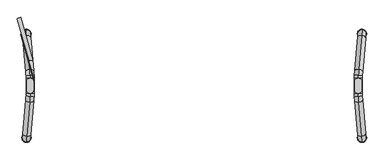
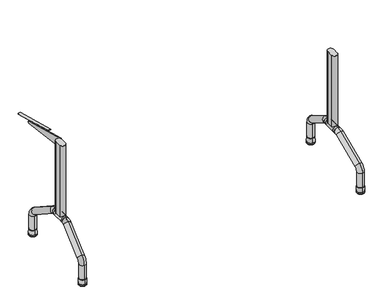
"""IFC4 building model written with IfcOpenShell, lengths in millimetres: furniture geometry, Mesa para refeitório : Mesa para refeitório 180x77cm cód 70475.6."""

from ifc_helpers import new_model, si_unit, point, frame, frame_2d, origin, place, context, project, spatial, polyline, circle_curve, ellipse_curve, trimmed, segment, composite_curve, outline, extrude, source, transform, mapped, element, save
from ifc_brep_helpers import plane_surface, cylinder_surface, revolved_surface, extruded_surface, advanced_brep


def furniture_81a5dd6e(model_context):
    return source(origin(), model_context, "Body", "SolidModel", [
        advanced_brep(
        [(-819.4401581, 37.5, 255.0), (-819.4401581, -37.5, 255.0), (-819.4401581, -37.5, 295.0), (-819.4401581, 37.5, 295.0), (-820.0583573, -51.7441422, 295.0), (-820.0583573, -51.7441422, 255.0), (-820.0583573, 51.7441422, 295.0), (-820.0583573, 51.7441422, 255.0)],
        [
            (0, 1),
            (1, 2, ellipse_curve(frame((-819.4401581, -37.5, 275.0), z_axis=(0.0, 1.0, 0.0), x_axis=(0.0, 0.0, -1.0)), 20.0, 19.923894)),
            (2, 3),
            (3, 0, ellipse_curve(frame((-819.4401581, 37.5, 275.0), z_axis=(0.0, -1.0, 0.0), x_axis=(0.0, 0.0, -1.0)), 20.0, 19.923894)),
            (2, 1, ellipse_curve(frame((-819.4401581, -37.5, 275.0), z_axis=(0.0, 1.0, 0.0), x_axis=(0.0, 0.0, -1.0)), 20.0, 19.923894)),
            (0, 3, ellipse_curve(frame((-819.4401581, 37.5, 275.0), z_axis=(0.0, -1.0, 0.0), x_axis=(0.0, 0.0, -1.0)), 20.0, 19.923894)),
            (4, 5, ellipse_curve(frame((-820.0583573, -51.7441422, 275.0), z_axis=(-0.08663729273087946, -0.9962399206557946, 0.0), x_axis=(0.0, 0.0, -1.0)), 20.0, 19.923894)),
            (5, 4, ellipse_curve(frame((-820.0583573, -51.7441422, 275.0), z_axis=(-0.08663729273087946, -0.9962399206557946, 0.0), x_axis=(0.0, 0.0, -1.0)), 20.0, 19.923894)),
            (4, 2, circle_curve(frame((-983.8513695, -37.5, 295.0), z_axis=(0.0, 0.0, 1.0), x_axis=(1.0, 0.0, 0.0)), 164.4112114)),
            (1, 5, circle_curve(frame((-983.8513695, -37.5, 255.0), z_axis=(0.0, 0.0, -1.0), x_axis=(1.0, 0.0, 0.0)), 164.4112114)),
            (6, 7, ellipse_curve(frame((-820.0583573, 51.7441422, 275.0), z_axis=(-0.08663729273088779, 0.9962399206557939, 0.0), x_axis=(0.0, 0.0, -1.0)), 20.0, 19.923894)),
            (7, 6, ellipse_curve(frame((-820.0583573, 51.7441422, 275.0), z_axis=(-0.08663729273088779, 0.9962399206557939, 0.0), x_axis=(0.0, 0.0, -1.0)), 20.0, 19.923894)),
            (3, 6, circle_curve(frame((-983.8513695, 37.5, 295.0), z_axis=(0.0, 0.0, 1.0), x_axis=(0.996239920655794, 0.08663729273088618, 0.0)), 164.4112114)),
            (7, 0, circle_curve(frame((-983.8513695, 37.5, 255.0), z_axis=(0.0, 0.0, -1.0), x_axis=(0.996239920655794, 0.08663729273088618, 0.0)), 164.4112114)),
        ],
        [
            extruded_surface(trimmed(ellipse_curve(frame((-819.4401581, 37.5, 275.0), z_axis=(0.0, -1.0, 0.0), x_axis=(0.0, 0.0, -1.0)), 20.0, 19.923894), [point((-819.4401581, 37.5, 295.0))], [point((-819.4401581, 37.5, 255.0))], True, "CARTESIAN"), (0.0, -75.0, 0.0), 75.0),
            extruded_surface(trimmed(ellipse_curve(frame((-819.4401581, 37.5, 275.0), z_axis=(0.0, -1.0, 0.0), x_axis=(0.0, 0.0, -1.0)), 20.0, 19.923894), [point((-819.4401581, 37.5, 255.0))], [point((-819.4401581, 37.5, 295.0))], True, "CARTESIAN"), (0.0, -75.0, 0.0), 75.0),
            plane_surface(frame((-820.0583573, -51.7441422, 0.0), z_axis=(-0.08663729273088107, -0.9962399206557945, 0.0), x_axis=(0.0, 0.0, 1.0))),
            revolved_surface(trimmed(ellipse_curve(frame((-819.4401581, -37.5, 275.0), z_axis=(0.0, -1.0, 0.0), x_axis=(0.0, 0.0, -1.0)), 20.0, 19.923894), [point((-819.4401581, -37.5, 295.0))], [point((-819.4401581, -37.5, 255.0))], True, "CARTESIAN"), (-983.8513695, -37.5, 0.0), (0.0, 0.0, 1.0)),
            revolved_surface(trimmed(ellipse_curve(frame((-819.4401581, -37.5, 275.0), z_axis=(0.0, -1.0, 0.0), x_axis=(0.0, 0.0, -1.0)), 20.0, 19.923894), [point((-819.4401581, -37.5, 255.0))], [point((-819.4401581, -37.5, 295.0))], True, "CARTESIAN"), (-983.8513695, -37.5, 0.0), (0.0, 0.0, 1.0)),
            plane_surface(frame((-820.0583573, 51.7441422, 0.0), z_axis=(-0.08663729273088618, 0.996239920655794, 0.0), x_axis=(0.0, 0.0, 1.0))),
            revolved_surface(trimmed(ellipse_curve(frame((-820.0583573, 51.7441422, 275.0), z_axis=(0.08663729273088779, -0.9962399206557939, 0.0), x_axis=(0.0, 0.0, -1.0)), 20.0, 19.923894), [point((-820.0583573, 51.7441422, 295.0))], [point((-820.0583573, 51.7441422, 255.0))], True, "CARTESIAN"), (-983.8513695, 37.5, 0.0), (0.0, 0.0, 1.0)),
            revolved_surface(trimmed(ellipse_curve(frame((-820.0583573, 51.7441422, 275.0), z_axis=(0.08663729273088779, -0.9962399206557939, 0.0), x_axis=(0.0, 0.0, -1.0)), 20.0, 19.923894), [point((-820.0583573, 51.7441422, 255.0))], [point((-820.0583573, 51.7441422, 295.0))], True, "CARTESIAN"), (-983.8513695, 37.5, 0.0), (0.0, 0.0, 1.0)),
        ],
        [
            (0, [[1, 2, 3, 4]]),
            (1, [[-3, 5, -1, 6]]),
            (2, [[7, 8]]),
            (3, [[-7, 9, -2, 10]]),
            (4, [[-8, -10, -5, -9]]),
            (5, [[11, 12]]),
            (6, [[-4, 13, -12, 14]]),
            (7, [[-6, -14, -11, -13]]),
        ],
    ),
        advanced_brep(
        [(-839.9590188, 279.1314153, 43.1183008), (-836.4727891, 239.2836274, 43.1183008), (-839.9590188, 279.1314153, 130.5759348), (-836.4727891, 239.2836274, 130.5759348), (-837.4872272, 250.8787073, 181.5558347), (-822.822711, 83.2625212, 285.9798998), (-820.9843424, 62.2498719, 251.9932999), (-835.6488585, 229.866058, 147.5692348), (-820.0651581, 51.7435473, 295.0), (-820.0651581, 51.7435473, 255.0)],
        [
            (0, 1, circle_curve(frame((-838.215904, 259.2075213, 43.1183008), z_axis=(0.0, 0.0, -1.0), x_axis=(0.08715574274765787, -0.9961946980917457, 0.0)), 20.0)),
            (1, 0, circle_curve(frame((-838.215904, 259.2075213, 43.1183008), z_axis=(0.0, 0.0, -1.0), x_axis=(0.08715574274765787, -0.9961946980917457, 0.0)), 20.0)),
            (0, 2),
            (2, 3, circle_curve(frame((-838.215904, 259.2075213, 130.5759348), z_axis=(0.0, 0.0, -1.0), x_axis=(0.08715574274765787, -0.9961946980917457, 0.0)), 20.0)),
            (3, 1),
            (3, 2, circle_curve(frame((-838.215904, 259.2075213, 130.5759348), z_axis=(0.0, 0.0, -1.0), x_axis=(0.08715574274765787, -0.9961946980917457, 0.0)), 20.0)),
            (4, 5),
            (5, 6, circle_curve(frame((-821.9035267, 72.7561965, 268.9865999), z_axis=(-0.07405318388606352, 0.8464317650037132, -0.5273228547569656), x_axis=(0.04595921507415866, -0.5253162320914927, -0.8496649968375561)), 20.0)),
            (6, 7),
            (7, 4, circle_curve(frame((-836.5680429, 240.3723827, 164.5625347), z_axis=(0.07405318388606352, -0.8464317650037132, 0.5273228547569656), x_axis=(0.04595921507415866, -0.5253162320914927, -0.8496649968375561)), 20.0)),
            (6, 5, circle_curve(frame((-821.9035267, 72.7561965, 268.9865999), z_axis=(-0.07405318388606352, 0.8464317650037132, -0.5273228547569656), x_axis=(0.04595921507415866, -0.5253162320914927, -0.8496649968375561)), 20.0)),
            (4, 7, circle_curve(frame((-836.5680429, 240.3723827, 164.5625347), z_axis=(0.07405318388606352, -0.8464317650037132, 0.5273228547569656), x_axis=(0.04595921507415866, -0.5253162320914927, -0.8496649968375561)), 20.0)),
            (7, 3, circle_curve(frame((-834.7296742, 219.3597334, 130.5759348), z_axis=(-0.9961946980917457, -0.08715574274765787, 0.0), x_axis=(-0.08715574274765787, 0.9961946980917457, 0.0)), 20.0)),
            (2, 4, circle_curve(frame((-834.7296742, 219.3597334, 130.5759348), z_axis=(0.9961946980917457, 0.08715574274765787, 0.0), x_axis=(-0.08715574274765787, 0.9961946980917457, 0.0)), 60.0)),
            (8, 9, circle_curve(frame((-820.0651581, 51.7435473, 275.0), z_axis=(0.08715574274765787, -0.9961946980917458, 0.0), x_axis=(0.0, 0.0, -1.0)), 20.0)),
            (9, 8, circle_curve(frame((-820.0651581, 51.7435473, 275.0), z_axis=(0.08715574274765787, -0.9961946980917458, 0.0), x_axis=(0.0, 0.0, -1.0)), 20.0)),
            (9, 6, circle_curve(frame((-820.0651581, 51.7435473, 235.0), z_axis=(-0.9961946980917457, -0.08715574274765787, 0.0), x_axis=(-0.045959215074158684, 0.5253162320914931, 0.8496649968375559)), 20.0)),
            (5, 8, circle_curve(frame((-820.0651581, 51.7435473, 235.0), z_axis=(0.9961946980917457, 0.08715574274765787, 0.0), x_axis=(-0.045959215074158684, 0.5253162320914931, 0.8496649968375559)), 60.0)),
        ],
        [
            plane_surface(frame((-150.8415623, 319.3449838, 43.1183008), z_axis=(0.0, 0.0, -1.0000000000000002), x_axis=(-0.9961946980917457, -0.08715574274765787, 0.0))),
            cylinder_surface(frame((-838.215904, 259.2075213, 43.1183008), z_axis=(0.0, 0.0, -1.0000000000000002), x_axis=(0.08715574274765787, -0.9961946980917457, 0.0)), 20.0),
            cylinder_surface(frame((-836.5680429, 240.3723827, 164.5625347), z_axis=(-0.07405318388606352, 0.8464317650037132, -0.5273228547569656), x_axis=(0.04595921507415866, -0.5253162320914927, -0.8496649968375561)), 20.0),
            revolved_surface(trimmed(ellipse_curve(frame((-838.215904, 259.2075213, 130.5759348), z_axis=(0.0, 0.0, 1.0000000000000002), x_axis=(0.08715574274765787, -0.9961946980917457, 0.0)), 20.0, 20.0), [point((-836.4727891, 239.2836274, 130.5759348))], [point((-839.9590188, 279.1314153, 130.5759348))], True, "CARTESIAN"), (-147.3553326, 279.4971959, 130.5759348), (-0.9961946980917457, -0.08715574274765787, 0.0)),
            revolved_surface(trimmed(ellipse_curve(frame((-838.215904, 259.2075213, 130.5759348), z_axis=(0.0, 0.0, 1.0000000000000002), x_axis=(0.08715574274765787, -0.9961946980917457, 0.0)), 20.0, 20.0), [point((-839.9590188, 279.1314153, 130.5759348))], [point((-836.4727891, 239.2836274, 130.5759348))], True, "CARTESIAN"), (-147.3553326, 279.4971959, 130.5759348), (-0.9961946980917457, -0.08715574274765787, 0.0)),
            plane_surface(frame((-132.6908165, 111.8810098, 275.0), z_axis=(0.08715574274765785, -0.9961946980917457, 0.0), x_axis=(-0.9961946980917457, -0.08715574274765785, 0.0))),
            revolved_surface(trimmed(ellipse_curve(frame((-821.9035267, 72.7561965, 268.9865999), z_axis=(0.07405318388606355, -0.8464317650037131, 0.527322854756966), x_axis=(0.0459592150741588, -0.5253162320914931, -0.8496649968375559)), 20.0, 20.0), [point((-820.9843424, 62.2498719, 251.9932999))], [point((-822.822711, 83.2625212, 285.9798998))], True, "CARTESIAN"), (-132.6908165, 111.8810098, 235.0), (-0.9961946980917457, -0.08715574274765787, 0.0)),
            revolved_surface(trimmed(ellipse_curve(frame((-821.9035267, 72.7561965, 268.9865999), z_axis=(0.07405318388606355, -0.8464317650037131, 0.527322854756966), x_axis=(0.0459592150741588, -0.5253162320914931, -0.8496649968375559)), 20.0, 20.0), [point((-822.822711, 83.2625212, 285.9798998))], [point((-820.9843424, 62.2498719, 251.9932999))], True, "CARTESIAN"), (-132.6908165, 111.8810098, 235.0), (-0.9961946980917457, -0.08715574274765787, 0.0)),
        ],
        [
            (0, [[1, 2]]),
            (1, [[3, 4, 5, -1]]),
            (1, [[-5, 6, -3, -2]]),
            (2, [[7, 8, 9, 10]]),
            (2, [[-9, 11, -7, 12]]),
            (3, [[-10, 13, -4, 14]]),
            (4, [[-12, -14, -6, -13]]),
            (5, [[15, 16]]),
            (6, [[-16, 17, -8, 18]]),
            (7, [[-15, -18, -11, -17]]),
        ],
    ),
        advanced_brep(
        [(-836.4727891, -239.2836274, 43.1183008), (-839.9590188, -279.1314153, 43.1183008), (-839.9590188, -279.1314153, 130.5759348), (-836.4727891, -239.2836274, 130.5759348), (-837.4872272, -250.8787073, 181.5558347), (-822.822711, -83.2625212, 285.9798998), (-820.9843424, -62.2498719, 251.9932999), (-835.6488585, -229.866058, 147.5692348), (-820.0651581, -51.7435473, 255.0), (-820.0651581, -51.7435473, 295.0)],
        [
            (0, 1, circle_curve(frame((-838.215904, -259.2075213, 43.1183008), z_axis=(0.0, 0.0, -1.0), x_axis=(-0.08715574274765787, -0.9961946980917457, 0.0)), 20.0)),
            (1, 0, circle_curve(frame((-838.215904, -259.2075213, 43.1183008), z_axis=(0.0, 0.0, -1.0), x_axis=(-0.08715574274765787, -0.9961946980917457, 0.0)), 20.0)),
            (1, 2),
            (2, 3, circle_curve(frame((-838.215904, -259.2075213, 130.5759348), z_axis=(0.0, 0.0, -1.0), x_axis=(-0.08715574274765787, -0.9961946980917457, 0.0)), 20.0)),
            (3, 0),
            (3, 2, circle_curve(frame((-838.215904, -259.2075213, 130.5759348), z_axis=(0.0, 0.0, -1.0), x_axis=(-0.08715574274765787, -0.9961946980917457, 0.0)), 20.0)),
            (4, 5),
            (5, 6, circle_curve(frame((-821.9035267, -72.7561965, 268.9865999), z_axis=(-0.07405318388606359, -0.8464317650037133, -0.5273228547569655), x_axis=(-0.04595921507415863, -0.5253162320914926, 0.8496649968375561)), 20.0)),
            (6, 7),
            (7, 4, circle_curve(frame((-836.5680429, -240.3723827, 164.5625347), z_axis=(0.07405318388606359, 0.8464317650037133, 0.5273228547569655), x_axis=(-0.04595921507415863, -0.5253162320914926, 0.8496649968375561)), 20.0)),
            (6, 5, circle_curve(frame((-821.9035267, -72.7561965, 268.9865999), z_axis=(-0.07405318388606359, -0.8464317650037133, -0.5273228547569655), x_axis=(-0.04595921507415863, -0.5253162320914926, 0.8496649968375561)), 20.0)),
            (4, 7, circle_curve(frame((-836.5680429, -240.3723827, 164.5625347), z_axis=(0.07405318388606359, 0.8464317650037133, 0.5273228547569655), x_axis=(-0.04595921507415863, -0.5253162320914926, 0.8496649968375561)), 20.0)),
            (7, 3, circle_curve(frame((-834.7296742, -219.3597334, 130.5759348), z_axis=(0.9961946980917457, -0.08715574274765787, 0.0), x_axis=(-0.08715574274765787, -0.9961946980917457, 0.0)), 20.0)),
            (2, 4, circle_curve(frame((-834.7296742, -219.3597334, 130.5759348), z_axis=(-0.9961946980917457, 0.08715574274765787, 0.0), x_axis=(-0.08715574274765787, -0.9961946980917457, 0.0)), 60.0)),
            (8, 9, circle_curve(frame((-820.0651581, -51.7435473, 275.0), z_axis=(0.08715574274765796, 0.9961946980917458, 0.0), x_axis=(0.0, 0.0, 1.0)), 20.0)),
            (9, 8, circle_curve(frame((-820.0651581, -51.7435473, 275.0), z_axis=(0.08715574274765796, 0.9961946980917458, 0.0), x_axis=(0.0, 0.0, 1.0)), 20.0)),
            (8, 6, circle_curve(frame((-820.0651581, -51.7435473, 235.0), z_axis=(0.9961946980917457, -0.08715574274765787, 0.0), x_axis=(-0.045959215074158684, -0.5253162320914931, 0.8496649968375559)), 20.0)),
            (5, 9, circle_curve(frame((-820.0651581, -51.7435473, 235.0), z_axis=(-0.9961946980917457, 0.08715574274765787, 0.0), x_axis=(-0.045959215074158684, -0.5253162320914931, 0.8496649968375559)), 60.0)),
        ],
        [
            plane_surface(frame((-150.8415623, -319.3449838, 43.1183008), z_axis=(0.0, 0.0, -1.0000000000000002), x_axis=(-0.9961946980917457, 0.08715574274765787, 0.0))),
            cylinder_surface(frame((-838.215904, -259.2075213, 43.1183008), z_axis=(0.0, 0.0, -1.0000000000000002), x_axis=(-0.08715574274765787, -0.9961946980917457, 0.0)), 20.0),
            cylinder_surface(frame((-836.5680429, -240.3723827, 164.5625347), z_axis=(-0.07405318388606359, -0.8464317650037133, -0.5273228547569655), x_axis=(-0.04595921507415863, -0.5253162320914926, 0.8496649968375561)), 20.0),
            revolved_surface(trimmed(ellipse_curve(frame((-838.215904, -259.2075213, 130.5759348), z_axis=(0.0, 0.0, 1.0000000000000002), x_axis=(-0.08715574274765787, -0.9961946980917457, 0.0)), 20.0, 20.0), [point((-836.4727891, -239.2836274, 130.5759348))], [point((-839.9590188, -279.1314153, 130.5759348))], True, "CARTESIAN"), (-147.3553326, -279.4971959, 130.5759348), (0.9961946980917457, -0.08715574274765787, 0.0)),
            revolved_surface(trimmed(ellipse_curve(frame((-838.215904, -259.2075213, 130.5759348), z_axis=(0.0, 0.0, 1.0000000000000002), x_axis=(-0.08715574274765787, -0.9961946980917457, 0.0)), 20.0, 20.0), [point((-839.9590188, -279.1314153, 130.5759348))], [point((-836.4727891, -239.2836274, 130.5759348))], True, "CARTESIAN"), (-147.3553326, -279.4971959, 130.5759348), (0.9961946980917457, -0.08715574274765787, 0.0)),
            plane_surface(frame((-132.6908165, -111.8810098, 275.0), z_axis=(0.0871557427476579, 0.9961946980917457, 0.0), x_axis=(-0.9961946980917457, 0.0871557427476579, 0.0))),
            revolved_surface(trimmed(ellipse_curve(frame((-821.9035267, -72.7561965, 268.9865999), z_axis=(0.07405318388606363, 0.8464317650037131, 0.527322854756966), x_axis=(-0.045959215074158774, -0.5253162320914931, 0.8496649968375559)), 20.0, 20.0), [point((-820.9843424, -62.2498719, 251.9932999))], [point((-822.822711, -83.2625212, 285.9798998))], True, "CARTESIAN"), (-132.6908165, -111.8810098, 235.0), (0.9961946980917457, -0.08715574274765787, 0.0)),
            revolved_surface(trimmed(ellipse_curve(frame((-821.9035267, -72.7561965, 268.9865999), z_axis=(0.07405318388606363, 0.8464317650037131, 0.527322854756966), x_axis=(-0.045959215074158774, -0.5253162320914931, 0.8496649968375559)), 20.0, 20.0), [point((-822.822711, -83.2625212, 285.9798998))], [point((-820.9843424, -62.2498719, 251.9932999))], True, "CARTESIAN"), (-132.6908165, -111.8810098, 235.0), (0.9961946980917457, -0.08715574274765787, 0.0)),
        ],
        [
            (0, [[1, 2]]),
            (1, [[3, 4, 5, -2]]),
            (1, [[-5, 6, -3, -1]]),
            (2, [[7, 8, 9, 10]]),
            (2, [[-9, 11, -7, 12]]),
            (3, [[-10, 13, -4, 14]]),
            (4, [[-12, -14, -6, -13]]),
            (5, [[15, 16]]),
            (6, [[-15, 17, -8, 18]]),
            (7, [[-16, -18, -11, -17]]),
        ],
    ),
        extrude(outline(composite_curve([segment(polyline([(-837.5814475, -19.3376613), (-837.5814475, 19.4032698)]), True, "CONTINUOUS"), segment(trimmed(circle_curve(frame_2d((-819.5814475, 19.4032698)), 18.0), [point((-837.5814475, 19.4032698))], [point((-801.5814475, 19.4032698))], False, "CARTESIAN"), True, "CONTINUOUS"), segment(polyline([(-801.5814475, 19.4032698), (-801.5814475, -19.3376613)]), True, "CONTINUOUS"), segment(trimmed(circle_curve(frame_2d((-819.5814475, -19.3376613)), 18.0), [point((-801.5814475, -19.3376613))], [point((-837.5814475, -19.3376613))], False, "CARTESIAN"), True, "CONTINUOUS")], self_intersect=False)), frame((0.0, 0.0, 275.0), z_axis=(0.0, 0.0, 1.0), x_axis=(1.0, 0.0, 0.0)), (0.0, 0.0, 1.0), 467.0),
        advanced_brep(
        [(819.4401581, 37.5, 255.0), (819.4401581, 37.5, 295.0), (819.4401581, -37.5, 295.0), (819.4401581, -37.5, 255.0), (820.0583573, -51.7441422, 295.0), (820.0583573, -51.7441422, 255.0), (820.0583573, 51.7441422, 295.0), (820.0583573, 51.7441422, 255.0)],
        [
            (0, 1, ellipse_curve(frame((819.4401581, 37.5, 275.0), z_axis=(0.0, -1.0, 0.0), x_axis=(0.0, 0.0, -1.0)), 20.0, 19.923894)),
            (1, 2),
            (2, 3, ellipse_curve(frame((819.4401581, -37.5, 275.0), z_axis=(0.0, 1.0, 0.0), x_axis=(0.0, 0.0, -1.0)), 20.0, 19.923894)),
            (3, 0),
            (1, 0, ellipse_curve(frame((819.4401581, 37.5, 275.0), z_axis=(0.0, -1.0, 0.0), x_axis=(0.0, 0.0, -1.0)), 20.0, 19.923894)),
            (3, 2, ellipse_curve(frame((819.4401581, -37.5, 275.0), z_axis=(0.0, 1.0, 0.0), x_axis=(0.0, 0.0, -1.0)), 20.0, 19.923894)),
            (4, 5, ellipse_curve(frame((820.0583573, -51.7441422, 275.0), z_axis=(0.08663729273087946, -0.9962399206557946, 0.0), x_axis=(0.0, 0.0, -1.0)), 20.0, 19.923894)),
            (5, 4, ellipse_curve(frame((820.0583573, -51.7441422, 275.0), z_axis=(0.08663729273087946, -0.9962399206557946, 0.0), x_axis=(0.0, 0.0, -1.0)), 20.0, 19.923894)),
            (5, 3, circle_curve(frame((983.8513695, -37.5, 255.0), z_axis=(0.0, 0.0, -1.0), x_axis=(-1.0, 0.0, 0.0)), 164.4112114)),
            (2, 4, circle_curve(frame((983.8513695, -37.5, 295.0), z_axis=(0.0, 0.0, 1.0), x_axis=(-1.0, 0.0, 0.0)), 164.4112114)),
            (6, 7, ellipse_curve(frame((820.0583573, 51.7441422, 275.0), z_axis=(0.08663729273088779, 0.9962399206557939, 0.0), x_axis=(0.0, 0.0, -1.0)), 20.0, 19.923894)),
            (7, 6, ellipse_curve(frame((820.0583573, 51.7441422, 275.0), z_axis=(0.08663729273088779, 0.9962399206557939, 0.0), x_axis=(0.0, 0.0, -1.0)), 20.0, 19.923894)),
            (0, 7, circle_curve(frame((983.8513695, 37.5, 255.0), z_axis=(0.0, 0.0, -1.0), x_axis=(-0.996239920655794, 0.08663729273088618, 0.0)), 164.4112114)),
            (6, 1, circle_curve(frame((983.8513695, 37.5, 295.0), z_axis=(0.0, 0.0, 1.0), x_axis=(-0.996239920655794, 0.08663729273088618, 0.0)), 164.4112114)),
        ],
        [
            extruded_surface(trimmed(ellipse_curve(frame((819.4401581, -37.5, 275.0), z_axis=(0.0, 1.0, 0.0), x_axis=(0.0, 0.0, -1.0)), 20.0, 19.923894), [point((819.4401581, -37.5, 295.0))], [point((819.4401581, -37.5, 255.0))], True, "CARTESIAN"), (0.0, 75.0, 0.0), 75.0),
            extruded_surface(trimmed(ellipse_curve(frame((819.4401581, -37.5, 275.0), z_axis=(0.0, 1.0, 0.0), x_axis=(0.0, 0.0, -1.0)), 20.0, 19.923894), [point((819.4401581, -37.5, 255.0))], [point((819.4401581, -37.5, 295.0))], True, "CARTESIAN"), (0.0, 75.0, 0.0), 75.0),
            plane_surface(frame((820.0583573, -51.7441422, 0.0), z_axis=(0.08663729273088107, -0.9962399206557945, 0.0), x_axis=(0.0, 0.0, 1.0))),
            revolved_surface(trimmed(ellipse_curve(frame((819.4401581, -37.5, 275.0), z_axis=(0.0, 1.0, 0.0), x_axis=(0.0, 0.0, -1.0)), 20.0, 19.923894), [point((819.4401581, -37.5, 295.0))], [point((819.4401581, -37.5, 255.0))], True, "CARTESIAN"), (983.8513695, -37.5, 0.0), (0.0, 0.0, 1.0)),
            revolved_surface(trimmed(ellipse_curve(frame((819.4401581, -37.5, 275.0), z_axis=(0.0, 1.0, 0.0), x_axis=(0.0, 0.0, -1.0)), 20.0, 19.923894), [point((819.4401581, -37.5, 255.0))], [point((819.4401581, -37.5, 295.0))], True, "CARTESIAN"), (983.8513695, -37.5, 0.0), (0.0, 0.0, 1.0)),
            plane_surface(frame((820.0583573, 51.7441422, 0.0), z_axis=(0.08663729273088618, 0.996239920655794, 0.0), x_axis=(0.0, 0.0, 1.0))),
            revolved_surface(trimmed(ellipse_curve(frame((820.0583573, 51.7441422, 275.0), z_axis=(0.08663729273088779, 0.9962399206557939, 0.0), x_axis=(0.0, 0.0, -1.0)), 20.0, 19.923894), [point((820.0583573, 51.7441422, 295.0))], [point((820.0583573, 51.7441422, 255.0))], True, "CARTESIAN"), (983.8513695, 37.5, 0.0), (0.0, 0.0, 1.0)),
            revolved_surface(trimmed(ellipse_curve(frame((820.0583573, 51.7441422, 275.0), z_axis=(0.08663729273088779, 0.9962399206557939, 0.0), x_axis=(0.0, 0.0, -1.0)), 20.0, 19.923894), [point((820.0583573, 51.7441422, 255.0))], [point((820.0583573, 51.7441422, 295.0))], True, "CARTESIAN"), (983.8513695, 37.5, 0.0), (0.0, 0.0, 1.0)),
        ],
        [
            (0, [[1, 2, 3, 4]]),
            (1, [[5, -4, 6, -2]]),
            (2, [[7, 8]]),
            (3, [[9, -3, 10, -8]]),
            (4, [[-10, -6, -9, -7]]),
            (5, [[11, 12]]),
            (6, [[13, -11, 14, -1]]),
            (7, [[-14, -12, -13, -5]]),
        ],
    ),
        advanced_brep(
        [(839.9590188, 279.1314153, 43.1183008), (836.4727891, 239.2836274, 43.1183008), (836.4727891, 239.2836274, 130.5759348), (839.9590188, 279.1314153, 130.5759348), (837.4872272, 250.8787073, 181.5558347), (835.6488585, 229.866058, 147.5692348), (820.9843424, 62.2498719, 251.9932999), (822.822711, 83.2625212, 285.9798998), (820.0651581, 51.7435473, 295.0), (820.0651581, 51.7435473, 255.0)],
        [
            (0, 1, circle_curve(frame((838.215904, 259.2075213, 43.1183008), z_axis=(0.0, 0.0, -1.0), x_axis=(-0.08715574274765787, -0.9961946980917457, 0.0)), 20.0)),
            (1, 0, circle_curve(frame((838.215904, 259.2075213, 43.1183008), z_axis=(0.0, 0.0, -1.0), x_axis=(-0.08715574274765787, -0.9961946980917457, 0.0)), 20.0)),
            (1, 2),
            (2, 3, circle_curve(frame((838.215904, 259.2075213, 130.5759348), z_axis=(0.0, 0.0, -1.0), x_axis=(-0.08715574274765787, -0.9961946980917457, 0.0)), 20.0)),
            (3, 0),
            (3, 2, circle_curve(frame((838.215904, 259.2075213, 130.5759348), z_axis=(0.0, 0.0, -1.0), x_axis=(-0.08715574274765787, -0.9961946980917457, 0.0)), 20.0)),
            (4, 5, circle_curve(frame((836.5680429, 240.3723827, 164.5625347), z_axis=(-0.07405318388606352, -0.8464317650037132, 0.5273228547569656), x_axis=(-0.04595921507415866, -0.5253162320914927, -0.8496649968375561)), 20.0)),
            (5, 6),
            (6, 7, circle_curve(frame((821.9035267, 72.7561965, 268.9865999), z_axis=(0.07405318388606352, 0.8464317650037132, -0.5273228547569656), x_axis=(-0.04595921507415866, -0.5253162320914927, -0.8496649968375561)), 20.0)),
            (7, 4),
            (5, 4, circle_curve(frame((836.5680429, 240.3723827, 164.5625347), z_axis=(-0.07405318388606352, -0.8464317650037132, 0.5273228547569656), x_axis=(-0.04595921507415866, -0.5253162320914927, -0.8496649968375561)), 20.0)),
            (7, 6, circle_curve(frame((821.9035267, 72.7561965, 268.9865999), z_axis=(0.07405318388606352, 0.8464317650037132, -0.5273228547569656), x_axis=(-0.04595921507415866, -0.5253162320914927, -0.8496649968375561)), 20.0)),
            (4, 3, circle_curve(frame((834.7296742, 219.3597334, 130.5759348), z_axis=(-0.9961946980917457, 0.08715574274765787, 0.0), x_axis=(0.08715574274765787, 0.9961946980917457, 0.0)), 60.0)),
            (2, 5, circle_curve(frame((834.7296742, 219.3597334, 130.5759348), z_axis=(0.9961946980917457, -0.08715574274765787, 0.0), x_axis=(0.08715574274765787, 0.9961946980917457, 0.0)), 20.0)),
            (8, 9, circle_curve(frame((820.0651581, 51.7435473, 275.0), z_axis=(-0.08715574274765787, -0.9961946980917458, 0.0), x_axis=(0.0, 0.0, -1.0)), 20.0)),
            (9, 8, circle_curve(frame((820.0651581, 51.7435473, 275.0), z_axis=(-0.08715574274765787, -0.9961946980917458, 0.0), x_axis=(0.0, 0.0, -1.0)), 20.0)),
            (8, 7, circle_curve(frame((820.0651581, 51.7435473, 235.0), z_axis=(-0.9961946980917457, 0.08715574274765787, 0.0), x_axis=(0.045959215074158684, 0.5253162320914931, 0.8496649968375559)), 60.0)),
            (6, 9, circle_curve(frame((820.0651581, 51.7435473, 235.0), z_axis=(0.9961946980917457, -0.08715574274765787, 0.0), x_axis=(0.045959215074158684, 0.5253162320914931, 0.8496649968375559)), 20.0)),
        ],
        [
            plane_surface(frame((150.8415623, 319.3449838, 43.1183008), z_axis=(0.0, 0.0, -1.0000000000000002), x_axis=(0.9961946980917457, -0.08715574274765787, 0.0))),
            cylinder_surface(frame((838.215904, 259.2075213, 43.1183008), z_axis=(0.0, 0.0, -1.0000000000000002), x_axis=(-0.08715574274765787, -0.9961946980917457, 0.0)), 20.0),
            cylinder_surface(frame((836.5680429, 240.3723827, 164.5625347), z_axis=(0.07405318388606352, 0.8464317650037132, -0.5273228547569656), x_axis=(-0.04595921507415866, -0.5253162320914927, -0.8496649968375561)), 20.0),
            revolved_surface(trimmed(ellipse_curve(frame((838.215904, 259.2075213, 130.5759348), z_axis=(0.0, 0.0, -1.0000000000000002), x_axis=(-0.08715574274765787, -0.9961946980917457, 0.0)), 20.0, 20.0), [point((836.4727891, 239.2836274, 130.5759348))], [point((839.9590188, 279.1314153, 130.5759348))], True, "CARTESIAN"), (147.3553326, 279.4971959, 130.5759348), (0.9961946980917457, -0.08715574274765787, 0.0)),
            revolved_surface(trimmed(ellipse_curve(frame((838.215904, 259.2075213, 130.5759348), z_axis=(0.0, 0.0, -1.0000000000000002), x_axis=(-0.08715574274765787, -0.9961946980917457, 0.0)), 20.0, 20.0), [point((839.9590188, 279.1314153, 130.5759348))], [point((836.4727891, 239.2836274, 130.5759348))], True, "CARTESIAN"), (147.3553326, 279.4971959, 130.5759348), (0.9961946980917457, -0.08715574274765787, 0.0)),
            plane_surface(frame((132.6908165, 111.8810098, 275.0), z_axis=(-0.08715574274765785, -0.9961946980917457, 0.0), x_axis=(0.9961946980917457, -0.08715574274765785, 0.0))),
            revolved_surface(trimmed(ellipse_curve(frame((821.9035267, 72.7561965, 268.9865999), z_axis=(0.07405318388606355, 0.8464317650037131, -0.527322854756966), x_axis=(-0.0459592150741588, -0.5253162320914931, -0.8496649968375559)), 20.0, 20.0), [point((820.9843424, 62.2498719, 251.9932999))], [point((822.822711, 83.2625212, 285.9798998))], True, "CARTESIAN"), (132.6908165, 111.8810098, 235.0), (0.9961946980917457, -0.08715574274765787, 0.0)),
            revolved_surface(trimmed(ellipse_curve(frame((821.9035267, 72.7561965, 268.9865999), z_axis=(0.07405318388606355, 0.8464317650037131, -0.527322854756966), x_axis=(-0.0459592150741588, -0.5253162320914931, -0.8496649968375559)), 20.0, 20.0), [point((822.822711, 83.2625212, 285.9798998))], [point((820.9843424, 62.2498719, 251.9932999))], True, "CARTESIAN"), (132.6908165, 111.8810098, 235.0), (0.9961946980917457, -0.08715574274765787, 0.0)),
        ],
        [
            (0, [[1, 2]]),
            (1, [[-2, 3, 4, 5]]),
            (1, [[-1, -5, 6, -3]]),
            (2, [[7, 8, 9, 10]]),
            (2, [[11, -10, 12, -8]]),
            (3, [[13, -4, 14, -7]]),
            (4, [[-14, -6, -13, -11]]),
            (5, [[15, 16]]),
            (6, [[17, -9, 18, -15]]),
            (7, [[-18, -12, -17, -16]]),
        ],
    ),
        advanced_brep(
        [(836.4727891, -239.2836274, 43.1183008), (839.9590188, -279.1314153, 43.1183008), (836.4727891, -239.2836274, 130.5759348), (839.9590188, -279.1314153, 130.5759348), (837.4872272, -250.8787073, 181.5558347), (835.6488585, -229.866058, 147.5692348), (820.9843424, -62.2498719, 251.9932999), (822.822711, -83.2625212, 285.9798998), (820.0651581, -51.7435473, 255.0), (820.0651581, -51.7435473, 295.0)],
        [
            (0, 1, circle_curve(frame((838.215904, -259.2075213, 43.1183008), z_axis=(0.0, 0.0, -1.0), x_axis=(0.08715574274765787, -0.9961946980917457, 0.0)), 20.0)),
            (1, 0, circle_curve(frame((838.215904, -259.2075213, 43.1183008), z_axis=(0.0, 0.0, -1.0), x_axis=(0.08715574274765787, -0.9961946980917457, 0.0)), 20.0)),
            (0, 2),
            (2, 3, circle_curve(frame((838.215904, -259.2075213, 130.5759348), z_axis=(0.0, 0.0, -1.0), x_axis=(0.08715574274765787, -0.9961946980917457, 0.0)), 20.0)),
            (3, 1),
            (3, 2, circle_curve(frame((838.215904, -259.2075213, 130.5759348), z_axis=(0.0, 0.0, -1.0), x_axis=(0.08715574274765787, -0.9961946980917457, 0.0)), 20.0)),
            (4, 5, circle_curve(frame((836.5680429, -240.3723827, 164.5625347), z_axis=(-0.07405318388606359, 0.8464317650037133, 0.5273228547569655), x_axis=(0.04595921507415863, -0.5253162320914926, 0.8496649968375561)), 20.0)),
            (5, 6),
            (6, 7, circle_curve(frame((821.9035267, -72.7561965, 268.9865999), z_axis=(0.07405318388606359, -0.8464317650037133, -0.5273228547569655), x_axis=(0.04595921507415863, -0.5253162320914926, 0.8496649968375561)), 20.0)),
            (7, 4),
            (5, 4, circle_curve(frame((836.5680429, -240.3723827, 164.5625347), z_axis=(-0.07405318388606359, 0.8464317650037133, 0.5273228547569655), x_axis=(0.04595921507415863, -0.5253162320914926, 0.8496649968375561)), 20.0)),
            (7, 6, circle_curve(frame((821.9035267, -72.7561965, 268.9865999), z_axis=(0.07405318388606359, -0.8464317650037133, -0.5273228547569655), x_axis=(0.04595921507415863, -0.5253162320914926, 0.8496649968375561)), 20.0)),
            (4, 3, circle_curve(frame((834.7296742, -219.3597334, 130.5759348), z_axis=(0.9961946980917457, 0.08715574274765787, 0.0), x_axis=(0.08715574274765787, -0.9961946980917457, 0.0)), 60.0)),
            (2, 5, circle_curve(frame((834.7296742, -219.3597334, 130.5759348), z_axis=(-0.9961946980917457, -0.08715574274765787, 0.0), x_axis=(0.08715574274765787, -0.9961946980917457, 0.0)), 20.0)),
            (8, 9, circle_curve(frame((820.0651581, -51.7435473, 275.0), z_axis=(-0.08715574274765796, 0.9961946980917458, 0.0), x_axis=(0.0, 0.0, 1.0)), 20.0)),
            (9, 8, circle_curve(frame((820.0651581, -51.7435473, 275.0), z_axis=(-0.08715574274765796, 0.9961946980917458, 0.0), x_axis=(0.0, 0.0, 1.0)), 20.0)),
            (9, 7, circle_curve(frame((820.0651581, -51.7435473, 235.0), z_axis=(0.9961946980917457, 0.08715574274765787, 0.0), x_axis=(0.045959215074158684, -0.5253162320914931, 0.8496649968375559)), 60.0)),
            (6, 8, circle_curve(frame((820.0651581, -51.7435473, 235.0), z_axis=(-0.9961946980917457, -0.08715574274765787, 0.0), x_axis=(0.045959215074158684, -0.5253162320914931, 0.8496649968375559)), 20.0)),
        ],
        [
            plane_surface(frame((150.8415623, -319.3449838, 43.1183008), z_axis=(0.0, 0.0, -1.0000000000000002), x_axis=(0.9961946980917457, 0.08715574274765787, 0.0))),
            cylinder_surface(frame((838.215904, -259.2075213, 43.1183008), z_axis=(0.0, 0.0, -1.0000000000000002), x_axis=(0.08715574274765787, -0.9961946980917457, 0.0)), 20.0),
            cylinder_surface(frame((836.5680429, -240.3723827, 164.5625347), z_axis=(0.07405318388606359, -0.8464317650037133, -0.5273228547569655), x_axis=(0.04595921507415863, -0.5253162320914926, 0.8496649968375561)), 20.0),
            revolved_surface(trimmed(ellipse_curve(frame((838.215904, -259.2075213, 130.5759348), z_axis=(0.0, 0.0, -1.0000000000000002), x_axis=(0.08715574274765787, -0.9961946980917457, 0.0)), 20.0, 20.0), [point((836.4727891, -239.2836274, 130.5759348))], [point((839.9590188, -279.1314153, 130.5759348))], True, "CARTESIAN"), (147.3553326, -279.4971959, 130.5759348), (-0.9961946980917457, -0.08715574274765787, 0.0)),
            revolved_surface(trimmed(ellipse_curve(frame((838.215904, -259.2075213, 130.5759348), z_axis=(0.0, 0.0, -1.0000000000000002), x_axis=(0.08715574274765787, -0.9961946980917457, 0.0)), 20.0, 20.0), [point((839.9590188, -279.1314153, 130.5759348))], [point((836.4727891, -239.2836274, 130.5759348))], True, "CARTESIAN"), (147.3553326, -279.4971959, 130.5759348), (-0.9961946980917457, -0.08715574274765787, 0.0)),
            plane_surface(frame((132.6908165, -111.8810098, 275.0), z_axis=(-0.0871557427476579, 0.9961946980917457, 0.0), x_axis=(0.9961946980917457, 0.0871557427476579, 0.0))),
            revolved_surface(trimmed(ellipse_curve(frame((821.9035267, -72.7561965, 268.9865999), z_axis=(0.07405318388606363, -0.8464317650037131, -0.527322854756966), x_axis=(0.045959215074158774, -0.5253162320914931, 0.8496649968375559)), 20.0, 20.0), [point((820.9843424, -62.2498719, 251.9932999))], [point((822.822711, -83.2625212, 285.9798998))], True, "CARTESIAN"), (132.6908165, -111.8810098, 235.0), (-0.9961946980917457, -0.08715574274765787, 0.0)),
            revolved_surface(trimmed(ellipse_curve(frame((821.9035267, -72.7561965, 268.9865999), z_axis=(0.07405318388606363, -0.8464317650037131, -0.527322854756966), x_axis=(0.045959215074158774, -0.5253162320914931, 0.8496649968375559)), 20.0, 20.0), [point((822.822711, -83.2625212, 285.9798998))], [point((820.9843424, -62.2498719, 251.9932999))], True, "CARTESIAN"), (132.6908165, -111.8810098, 235.0), (-0.9961946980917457, -0.08715574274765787, 0.0)),
        ],
        [
            (0, [[1, 2]]),
            (1, [[-1, 3, 4, 5]]),
            (1, [[-2, -5, 6, -3]]),
            (2, [[7, 8, 9, 10]]),
            (2, [[11, -10, 12, -8]]),
            (3, [[13, -4, 14, -7]]),
            (4, [[-14, -6, -13, -11]]),
            (5, [[15, 16]]),
            (6, [[17, -9, 18, -16]]),
            (7, [[-18, -12, -17, -15]]),
        ],
    ),
        extrude(outline(composite_curve([segment(trimmed(circle_curve(frame_2d((819.5814475, -19.3376613)), 18.0), [point((837.5814475, -19.3376613))], [point((801.5814475, -19.3376613))], False, "CARTESIAN"), True, "CONTINUOUS"), segment(polyline([(801.5814475, -19.3376613), (801.5814475, 19.4032698)]), True, "CONTINUOUS"), segment(trimmed(circle_curve(frame_2d((819.5814475, 19.4032698)), 18.0), [point((801.5814475, 19.4032698))], [point((837.5814475, 19.4032698))], False, "CARTESIAN"), True, "CONTINUOUS"), segment(polyline([(837.5814475, 19.4032698), (837.5814475, -19.3376613)]), True, "CONTINUOUS")], self_intersect=False)), frame((0.0, 0.0, 275.0), z_axis=(0.0, 0.0, 1.0), x_axis=(1.0, 0.0, 0.0)), (0.0, 0.0, 1.0), 467.0),
        advanced_brep(
        [(-838.215904, 280.5839249, 42.9792915), (-838.215904, 281.212521, 42.3931162), (-838.215904, 238.787479, 42.3931162), (-838.215904, 239.4160751, 42.9792915), (-838.215904, 283.125, 15.0433923), (-838.215904, 236.875, 15.0433923), (-838.215904, 283.125, 7.2213749), (-838.215904, 236.875, 7.2213749), (-838.215904, 276.0093092, 0.1056841), (-838.215904, 243.9906908, 0.1056841), (-838.215904, 260.0, 0.1056841), (-838.215904, 260.0, 42.9792915)],
        [
            (0, 1, circle_curve(frame((-838.215904, 280.5839249, 42.3491605), z_axis=(-1.0, 0.0, 0.0), x_axis=(0.0, -1.0, 0.0)), 0.630131)),
            (1, 2, circle_curve(frame((-838.215904, 260.0, 42.3931162), z_axis=(0.0, 0.0, 1.0), x_axis=(0.0, -1.0, 0.0)), 21.212521)),
            (2, 3, circle_curve(frame((-838.215904, 239.4160751, 42.3491605), z_axis=(-1.0, 0.0, 0.0), x_axis=(0.0, 1.0, 0.0)), 0.630131)),
            (3, 0, circle_curve(frame((-838.215904, 260.0, 42.9792915), z_axis=(0.0, 0.0, -1.0), x_axis=(0.0, -1.0, 0.0)), 20.5839249)),
            (2, 1, circle_curve(frame((-838.215904, 260.0, 42.3931162), z_axis=(0.0, 0.0, 1.0), x_axis=(0.0, -1.0, 0.0)), 21.212521)),
            (0, 3, circle_curve(frame((-838.215904, 260.0, 42.9792915), z_axis=(0.0, 0.0, -1.0), x_axis=(0.0, -1.0, 0.0)), 20.5839249)),
            (1, 4),
            (4, 5, circle_curve(frame((-838.215904, 260.0, 15.0433923), z_axis=(0.0, 0.0, 1.0), x_axis=(0.0, -1.0, 0.0)), 23.125)),
            (5, 2),
            (5, 4, circle_curve(frame((-838.215904, 260.0, 15.0433923), z_axis=(0.0, 0.0, 1.0), x_axis=(0.0, -1.0, 0.0)), 23.125)),
            (4, 6),
            (6, 7, circle_curve(frame((-838.215904, 260.0, 7.2213749), z_axis=(0.0, 0.0, 1.0), x_axis=(0.0, -1.0, 0.0)), 23.125)),
            (7, 5),
            (7, 6, circle_curve(frame((-838.215904, 260.0, 7.2213749), z_axis=(0.0, 0.0, 1.0), x_axis=(0.0, -1.0, 0.0)), 23.125)),
            (6, 8, circle_curve(frame((-838.215904, 276.0093092, 7.2213749), z_axis=(-1.0, 0.0, 0.0), x_axis=(0.0, -1.0, 0.0)), 7.1156908)),
            (8, 9, circle_curve(frame((-838.215904, 260.0, 0.1056841), z_axis=(0.0, 0.0, 1.0), x_axis=(0.0, -1.0, 0.0)), 16.0093092)),
            (9, 7, circle_curve(frame((-838.215904, 243.9906908, 7.2213749), z_axis=(-1.0, 0.0, 0.0), x_axis=(0.0, 1.0, 0.0)), 7.1156908)),
            (9, 8, circle_curve(frame((-838.215904, 260.0, 0.1056841), z_axis=(0.0, 0.0, 1.0), x_axis=(0.0, -1.0, 0.0)), 16.0093092)),
            (8, 10),
            (10, 9),
            (11, 0),
            (3, 11),
        ],
        [
            revolved_surface(trimmed(ellipse_curve(frame((-838.215904, 239.4160751, 42.3491605), z_axis=(-1.0, 0.0, 0.0), x_axis=(0.0, 1.0, 0.0)), 0.630131, 0.630131), [point((-838.215904, 238.787479, 42.3931162))], [point((-838.215904, 239.4160751, 42.9792915))], True, "CARTESIAN"), (-838.215904, 260.0, 0.1056841), (0.0, 0.0, 1.0)),
            revolved_surface(polyline([(-838.215904, 236.875, 15.0433923), (-838.215904, 238.787479, 42.3931162)]), (-838.215904, 260.0, 0.1056841), (0.0, 0.0, 1.0)),
            cylinder_surface(frame((-838.215904, 260.0, 0.1056841), z_axis=(0.0, 0.0, 1.0), x_axis=(0.0, -1.0, 0.0)), 23.125),
            revolved_surface(trimmed(ellipse_curve(frame((-838.215904, 243.9906908, 7.2213749), z_axis=(-1.0, 0.0, 0.0), x_axis=(0.0, 1.0, 0.0)), 7.1156908, 7.1156908), [point((-838.215904, 243.9906908, 0.1056841))], [point((-838.215904, 236.875, 7.2213749))], True, "CARTESIAN"), (-838.215904, 260.0, 0.1056841), (0.0, 0.0, 1.0)),
            plane_surface(frame((-838.215904, 260.0, 0.1056841), z_axis=(0.0, 0.0, -1.0), x_axis=(0.0, -1.0, 0.0))),
            plane_surface(frame((-838.215904, 260.0, 42.9792915), z_axis=(0.0, 0.0, 1.0), x_axis=(0.0, -1.0, 0.0))),
        ],
        [
            (0, [[1, 2, 3, 4]]),
            (0, [[-3, 5, -1, 6]]),
            (1, [[7, 8, 9, -2]]),
            (1, [[-9, 10, -7, -5]]),
            (2, [[11, 12, 13, -8]]),
            (2, [[-13, 14, -11, -10]]),
            (3, [[15, 16, 17, -12]]),
            (3, [[-17, 18, -15, -14]]),
            (4, [[19, 20, -16]]),
            (4, [[-20, -19, -18]]),
            (5, [[21, -4, 22]]),
            (5, [[-22, -6, -21]]),
        ],
    ),
        advanced_brep(
        [(-838.215904, -239.4160751, 42.9792915), (-838.215904, -238.787479, 42.3931162), (-838.215904, -281.212521, 42.3931162), (-838.215904, -280.5839249, 42.9792915), (-838.215904, -236.875, 15.0433923), (-838.215904, -283.125, 15.0433923), (-838.215904, -236.875, 7.2213749), (-838.215904, -283.125, 7.2213749), (-838.215904, -243.9906908, 0.1056841), (-838.215904, -276.0093092, 0.1056841), (-838.215904, -260.0, 0.1056841), (-838.215904, -260.0, 42.9792915)],
        [
            (0, 1, circle_curve(frame((-838.215904, -239.4160751, 42.3491605), z_axis=(-1.0, 0.0, 0.0), x_axis=(0.0, -1.0, 0.0)), 0.630131)),
            (1, 2, circle_curve(frame((-838.215904, -260.0, 42.3931162), z_axis=(0.0, 0.0, 1.0), x_axis=(0.0, -1.0, 0.0)), 21.212521)),
            (2, 3, circle_curve(frame((-838.215904, -280.5839249, 42.3491605), z_axis=(-1.0, 0.0, 0.0), x_axis=(0.0, 1.0, 0.0)), 0.630131)),
            (3, 0, circle_curve(frame((-838.215904, -260.0, 42.9792915), z_axis=(0.0, 0.0, -1.0), x_axis=(0.0, -1.0, 0.0)), 20.5839249)),
            (2, 1, circle_curve(frame((-838.215904, -260.0, 42.3931162), z_axis=(0.0, 0.0, 1.0), x_axis=(0.0, -1.0, 0.0)), 21.212521)),
            (0, 3, circle_curve(frame((-838.215904, -260.0, 42.9792915), z_axis=(0.0, 0.0, -1.0), x_axis=(0.0, -1.0, 0.0)), 20.5839249)),
            (1, 4),
            (4, 5, circle_curve(frame((-838.215904, -260.0, 15.0433923), z_axis=(0.0, 0.0, 1.0), x_axis=(0.0, -1.0, 0.0)), 23.125)),
            (5, 2),
            (5, 4, circle_curve(frame((-838.215904, -260.0, 15.0433923), z_axis=(0.0, 0.0, 1.0), x_axis=(0.0, -1.0, 0.0)), 23.125)),
            (4, 6),
            (6, 7, circle_curve(frame((-838.215904, -260.0, 7.2213749), z_axis=(0.0, 0.0, 1.0), x_axis=(0.0, -1.0, 0.0)), 23.125)),
            (7, 5),
            (7, 6, circle_curve(frame((-838.215904, -260.0, 7.2213749), z_axis=(0.0, 0.0, 1.0), x_axis=(0.0, -1.0, 0.0)), 23.125)),
            (6, 8, circle_curve(frame((-838.215904, -243.9906908, 7.2213749), z_axis=(-1.0, 0.0, 0.0), x_axis=(0.0, -1.0, 0.0)), 7.1156908)),
            (8, 9, circle_curve(frame((-838.215904, -260.0, 0.1056841), z_axis=(0.0, 0.0, 1.0), x_axis=(0.0, -1.0, 0.0)), 16.0093092)),
            (9, 7, circle_curve(frame((-838.215904, -276.0093092, 7.2213749), z_axis=(-1.0, 0.0, 0.0), x_axis=(0.0, 1.0, 0.0)), 7.1156908)),
            (9, 8, circle_curve(frame((-838.215904, -260.0, 0.1056841), z_axis=(0.0, 0.0, 1.0), x_axis=(0.0, -1.0, 0.0)), 16.0093092)),
            (8, 10),
            (10, 9),
            (11, 0),
            (3, 11),
        ],
        [
            revolved_surface(trimmed(ellipse_curve(frame((-838.215904, -280.5839249, 42.3491605), z_axis=(-1.0, 0.0, 0.0), x_axis=(0.0, 1.0, 0.0)), 0.630131, 0.630131), [point((-838.215904, -281.212521, 42.3931162))], [point((-838.215904, -280.5839249, 42.9792915))], True, "CARTESIAN"), (-838.215904, -260.0, 0.1056841), (0.0, 0.0, 1.0)),
            revolved_surface(polyline([(-838.215904, -283.125, 15.0433923), (-838.215904, -281.212521, 42.3931162)]), (-838.215904, -260.0, 0.1056841), (0.0, 0.0, 1.0)),
            cylinder_surface(frame((-838.215904, -260.0, 0.1056841), z_axis=(0.0, 0.0, 1.0), x_axis=(0.0, -1.0, 0.0)), 23.125),
            revolved_surface(trimmed(ellipse_curve(frame((-838.215904, -276.0093092, 7.2213749), z_axis=(-1.0, 0.0, 0.0), x_axis=(0.0, 1.0, 0.0)), 7.1156908, 7.1156908), [point((-838.215904, -276.0093092, 0.1056841))], [point((-838.215904, -283.125, 7.2213749))], True, "CARTESIAN"), (-838.215904, -260.0, 0.1056841), (0.0, 0.0, 1.0)),
            plane_surface(frame((-838.215904, -260.0, 0.1056841), z_axis=(0.0, 0.0, -1.0), x_axis=(0.0, -1.0, 0.0))),
            plane_surface(frame((-838.215904, -260.0, 42.9792915), z_axis=(0.0, 0.0, 1.0), x_axis=(0.0, -1.0, 0.0))),
        ],
        [
            (0, [[1, 2, 3, 4]]),
            (0, [[-3, 5, -1, 6]]),
            (1, [[7, 8, 9, -2]]),
            (1, [[-9, 10, -7, -5]]),
            (2, [[11, 12, 13, -8]]),
            (2, [[-13, 14, -11, -10]]),
            (3, [[15, 16, 17, -12]]),
            (3, [[-17, 18, -15, -14]]),
            (4, [[19, 20, -16]]),
            (4, [[-20, -19, -18]]),
            (5, [[21, -4, 22]]),
            (5, [[-22, -6, -21]]),
        ],
    ),
        advanced_brep(
        [(838.215904, 280.5839249, 42.9792915), (838.215904, 239.4160751, 42.9792915), (838.215904, 238.787479, 42.3931162), (838.215904, 281.212521, 42.3931162), (838.215904, 236.875, 15.0433923), (838.215904, 283.125, 15.0433923), (838.215904, 236.875, 7.2213749), (838.215904, 283.125, 7.2213749), (838.215904, 243.9906908, 0.1056841), (838.215904, 276.0093092, 0.1056841), (838.215904, 260.0, 0.1056841), (838.215904, 260.0, 42.9792915)],
        [
            (0, 1, circle_curve(frame((838.215904, 260.0, 42.9792915), z_axis=(0.0, 0.0, -1.0), x_axis=(0.0, -1.0, 0.0)), 20.5839249)),
            (1, 2, circle_curve(frame((838.215904, 239.4160751, 42.3491605), z_axis=(1.0, 0.0, 0.0), x_axis=(0.0, 1.0, 0.0)), 0.630131)),
            (2, 3, circle_curve(frame((838.215904, 260.0, 42.3931162), z_axis=(0.0, 0.0, 1.0), x_axis=(0.0, -1.0, 0.0)), 21.212521)),
            (3, 0, circle_curve(frame((838.215904, 280.5839249, 42.3491605), z_axis=(1.0, 0.0, 0.0), x_axis=(0.0, -1.0, 0.0)), 0.630131)),
            (1, 0, circle_curve(frame((838.215904, 260.0, 42.9792915), z_axis=(0.0, 0.0, -1.0), x_axis=(0.0, -1.0, 0.0)), 20.5839249)),
            (3, 2, circle_curve(frame((838.215904, 260.0, 42.3931162), z_axis=(0.0, 0.0, 1.0), x_axis=(0.0, -1.0, 0.0)), 21.212521)),
            (2, 4),
            (4, 5, circle_curve(frame((838.215904, 260.0, 15.0433923), z_axis=(0.0, 0.0, 1.0), x_axis=(0.0, -1.0, 0.0)), 23.125)),
            (5, 3),
            (5, 4, circle_curve(frame((838.215904, 260.0, 15.0433923), z_axis=(0.0, 0.0, 1.0), x_axis=(0.0, -1.0, 0.0)), 23.125)),
            (4, 6),
            (6, 7, circle_curve(frame((838.215904, 260.0, 7.2213749), z_axis=(0.0, 0.0, 1.0), x_axis=(0.0, -1.0, 0.0)), 23.125)),
            (7, 5),
            (7, 6, circle_curve(frame((838.215904, 260.0, 7.2213749), z_axis=(0.0, 0.0, 1.0), x_axis=(0.0, -1.0, 0.0)), 23.125)),
            (6, 8, circle_curve(frame((838.215904, 243.9906908, 7.2213749), z_axis=(1.0, 0.0, 0.0), x_axis=(0.0, 1.0, 0.0)), 7.1156908)),
            (8, 9, circle_curve(frame((838.215904, 260.0, 0.1056841), z_axis=(0.0, 0.0, 1.0), x_axis=(0.0, -1.0, 0.0)), 16.0093092)),
            (9, 7, circle_curve(frame((838.215904, 276.0093092, 7.2213749), z_axis=(1.0, 0.0, 0.0), x_axis=(0.0, -1.0, 0.0)), 7.1156908)),
            (9, 8, circle_curve(frame((838.215904, 260.0, 0.1056841), z_axis=(0.0, 0.0, 1.0), x_axis=(0.0, -1.0, 0.0)), 16.0093092)),
            (8, 10),
            (10, 9),
            (11, 1),
            (0, 11),
        ],
        [
            revolved_surface(trimmed(ellipse_curve(frame((838.215904, 239.4160751, 42.3491605), z_axis=(-1.0, 0.0, 0.0), x_axis=(0.0, 1.0, 0.0)), 0.630131, 0.630131), [point((838.215904, 238.787479, 42.3931162))], [point((838.215904, 239.4160751, 42.9792915))], True, "CARTESIAN"), (838.215904, 260.0, 0.1056841), (0.0, 0.0, 1.0)),
            revolved_surface(polyline([(838.215904, 236.875, 15.0433923), (838.215904, 238.787479, 42.3931162)]), (838.215904, 260.0, 0.1056841), (0.0, 0.0, 1.0)),
            cylinder_surface(frame((838.215904, 260.0, 0.1056841), z_axis=(0.0, 0.0, 1.0), x_axis=(0.0, -1.0, 0.0)), 23.125),
            revolved_surface(trimmed(ellipse_curve(frame((838.215904, 243.9906908, 7.2213749), z_axis=(-1.0, 0.0, 0.0), x_axis=(0.0, 1.0, 0.0)), 7.1156908, 7.1156908), [point((838.215904, 243.9906908, 0.1056841))], [point((838.215904, 236.875, 7.2213749))], True, "CARTESIAN"), (838.215904, 260.0, 0.1056841), (0.0, 0.0, 1.0)),
            plane_surface(frame((838.215904, 260.0, 0.1056841), z_axis=(0.0, 0.0, -1.0), x_axis=(0.0, -1.0, 0.0))),
            plane_surface(frame((838.215904, 260.0, 42.9792915), z_axis=(0.0, 0.0, 1.0), x_axis=(0.0, -1.0, 0.0))),
        ],
        [
            (0, [[1, 2, 3, 4]]),
            (0, [[5, -4, 6, -2]]),
            (1, [[-3, 7, 8, 9]]),
            (1, [[-6, -9, 10, -7]]),
            (2, [[-8, 11, 12, 13]]),
            (2, [[-10, -13, 14, -11]]),
            (3, [[-12, 15, 16, 17]]),
            (3, [[-14, -17, 18, -15]]),
            (4, [[-16, 19, 20]]),
            (4, [[-18, -20, -19]]),
            (5, [[21, -1, 22]]),
            (5, [[-22, -5, -21]]),
        ],
    ),
        advanced_brep(
        [(838.215904, -239.4160751, 42.9792915), (838.215904, -280.5839249, 42.9792915), (838.215904, -281.212521, 42.3931162), (838.215904, -238.787479, 42.3931162), (838.215904, -283.125, 15.0433923), (838.215904, -236.875, 15.0433923), (838.215904, -283.125, 7.2213749), (838.215904, -236.875, 7.2213749), (838.215904, -276.0093092, 0.1056841), (838.215904, -243.9906908, 0.1056841), (838.215904, -260.0, 0.1056841), (838.215904, -260.0, 42.9792915)],
        [
            (0, 1, circle_curve(frame((838.215904, -260.0, 42.9792915), z_axis=(0.0, 0.0, -1.0), x_axis=(0.0, -1.0, 0.0)), 20.5839249)),
            (1, 2, circle_curve(frame((838.215904, -280.5839249, 42.3491605), z_axis=(1.0, 0.0, 0.0), x_axis=(0.0, 1.0, 0.0)), 0.630131)),
            (2, 3, circle_curve(frame((838.215904, -260.0, 42.3931162), z_axis=(0.0, 0.0, 1.0), x_axis=(0.0, -1.0, 0.0)), 21.212521)),
            (3, 0, circle_curve(frame((838.215904, -239.4160751, 42.3491605), z_axis=(1.0, 0.0, 0.0), x_axis=(0.0, -1.0, 0.0)), 0.630131)),
            (1, 0, circle_curve(frame((838.215904, -260.0, 42.9792915), z_axis=(0.0, 0.0, -1.0), x_axis=(0.0, -1.0, 0.0)), 20.5839249)),
            (3, 2, circle_curve(frame((838.215904, -260.0, 42.3931162), z_axis=(0.0, 0.0, 1.0), x_axis=(0.0, -1.0, 0.0)), 21.212521)),
            (2, 4),
            (4, 5, circle_curve(frame((838.215904, -260.0, 15.0433923), z_axis=(0.0, 0.0, 1.0), x_axis=(0.0, -1.0, 0.0)), 23.125)),
            (5, 3),
            (5, 4, circle_curve(frame((838.215904, -260.0, 15.0433923), z_axis=(0.0, 0.0, 1.0), x_axis=(0.0, -1.0, 0.0)), 23.125)),
            (4, 6),
            (6, 7, circle_curve(frame((838.215904, -260.0, 7.2213749), z_axis=(0.0, 0.0, 1.0), x_axis=(0.0, -1.0, 0.0)), 23.125)),
            (7, 5),
            (7, 6, circle_curve(frame((838.215904, -260.0, 7.2213749), z_axis=(0.0, 0.0, 1.0), x_axis=(0.0, -1.0, 0.0)), 23.125)),
            (6, 8, circle_curve(frame((838.215904, -276.0093092, 7.2213749), z_axis=(1.0, 0.0, 0.0), x_axis=(0.0, 1.0, 0.0)), 7.1156908)),
            (8, 9, circle_curve(frame((838.215904, -260.0, 0.1056841), z_axis=(0.0, 0.0, 1.0), x_axis=(0.0, -1.0, 0.0)), 16.0093092)),
            (9, 7, circle_curve(frame((838.215904, -243.9906908, 7.2213749), z_axis=(1.0, 0.0, 0.0), x_axis=(0.0, -1.0, 0.0)), 7.1156908)),
            (9, 8, circle_curve(frame((838.215904, -260.0, 0.1056841), z_axis=(0.0, 0.0, 1.0), x_axis=(0.0, -1.0, 0.0)), 16.0093092)),
            (8, 10),
            (10, 9),
            (11, 1),
            (0, 11),
        ],
        [
            revolved_surface(trimmed(ellipse_curve(frame((838.215904, -280.5839249, 42.3491605), z_axis=(-1.0, 0.0, 0.0), x_axis=(0.0, 1.0, 0.0)), 0.630131, 0.630131), [point((838.215904, -281.212521, 42.3931162))], [point((838.215904, -280.5839249, 42.9792915))], True, "CARTESIAN"), (838.215904, -260.0, 0.1056841), (0.0, 0.0, 1.0)),
            revolved_surface(polyline([(838.215904, -283.125, 15.0433923), (838.215904, -281.212521, 42.3931162)]), (838.215904, -260.0, 0.1056841), (0.0, 0.0, 1.0)),
            cylinder_surface(frame((838.215904, -260.0, 0.1056841), z_axis=(0.0, 0.0, 1.0), x_axis=(0.0, -1.0, 0.0)), 23.125),
            revolved_surface(trimmed(ellipse_curve(frame((838.215904, -276.0093092, 7.2213749), z_axis=(-1.0, 0.0, 0.0), x_axis=(0.0, 1.0, 0.0)), 7.1156908, 7.1156908), [point((838.215904, -276.0093092, 0.1056841))], [point((838.215904, -283.125, 7.2213749))], True, "CARTESIAN"), (838.215904, -260.0, 0.1056841), (0.0, 0.0, 1.0)),
            plane_surface(frame((838.215904, -260.0, 0.1056841), z_axis=(0.0, 0.0, -1.0), x_axis=(0.0, -1.0, 0.0))),
            plane_surface(frame((838.215904, -260.0, 42.9792915), z_axis=(0.0, 0.0, 1.0), x_axis=(0.0, -1.0, 0.0))),
        ],
        [
            (0, [[1, 2, 3, 4]]),
            (0, [[5, -4, 6, -2]]),
            (1, [[-3, 7, 8, 9]]),
            (1, [[-6, -9, 10, -7]]),
            (2, [[-8, 11, 12, 13]]),
            (2, [[-10, -13, 14, -11]]),
            (3, [[-12, 15, 16, 17]]),
            (3, [[-14, -17, 18, -15]]),
            (4, [[-16, 19, 20]]),
            (4, [[-18, -20, -19]]),
            (5, [[21, -1, 22]]),
            (5, [[-22, -5, -21]]),
        ],
    ),
        extrude(outline(composite_curve([segment(polyline([(0.0, 0.0), (-11.3499079, -59.0370689), (-236.7172151, -15.7100843)]), True, "CONTINUOUS"), segment(trimmed(circle_curve(frame_2d((-235.1976245, -7.8058636)), 8.0489664), [point((-236.7172151, -15.7100843))], [point((-237.1608757, 0.0))], False, "CARTESIAN"), True, "CONTINUOUS"), segment(polyline([(-237.1608757, 0.0), (0.0, 0.0)]), True, "CONTINUOUS")], self_intersect=False)), frame((-801.5529394, 28.1487461, 681.8818171), z_axis=(0.9612616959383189, 0.27563735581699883, 0.0), x_axis=(0.2706805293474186, -0.943975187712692, -0.1887932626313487)), (0.0, 0.0, 1.0), 1.932216),
        extrude(outline(composite_curve([segment(polyline([(-805.6618953, 127.5875081), (-824.3872851, 127.5875081), (-882.9451635, 331.803099)]), True, "CONTINUOUS"), segment(trimmed(circle_curve(frame_2d((-878.138855, 333.1812858)), 5.0), [point((-882.9451635, 331.803099))], [point((-879.5170418, 337.9875943))], False, "CARTESIAN"), True, "CONTINUOUS"), segment(polyline([(-879.5170418, 337.9875943), (-867.0206397, 341.5708799), (-805.6618953, 127.5875081)]), True, "CONTINUOUS")], self_intersect=False)), frame((0.0, 0.0, 740.0), z_axis=(0.0, 0.0, 1.0), x_axis=(1.0, 0.0, 0.0)), (0.0, 0.0, 1.0), 2.0),
    ])


if __name__ == "__main__":
    model = new_model("IFC4")
    model_context = context("Model", 3, world=origin())
    ifc_project = project(units=[si_unit("LENGTHUNIT", "METRE", prefix="MILLI")], contexts=[model_context])
    site = spatial("IfcSite", under=ifc_project)
    building = spatial("IfcBuilding", under=site)
    placement = place(None, origin())
    furniture_shape = furniture_81a5dd6e(model_context)
    element("IfcFurniture", 1, ObjectType="Mesa para refeitório : Mesa para refeitório 180x77cm cód 70475.6", at=placement, inside=building, context=model_context, shape_type="MappedRepresentation", body=[
        mapped(furniture_shape, transform((0.0, 0.0, 0.0), x_axis=(1.0, 0.0, 0.0), y_axis=(0.0, 1.0, 0.0), z_axis=(0.0, 0.0, 1.0))),
    ])
    save(model, "model.ifc")
